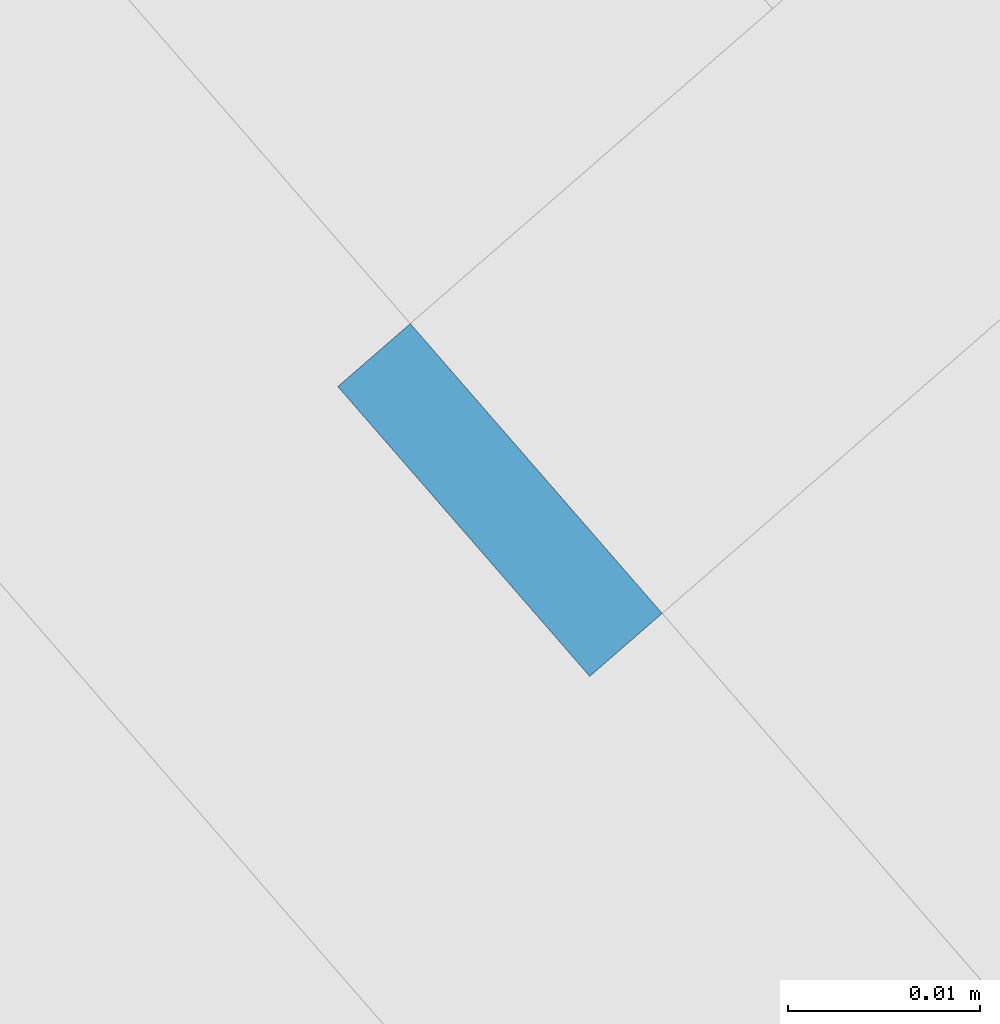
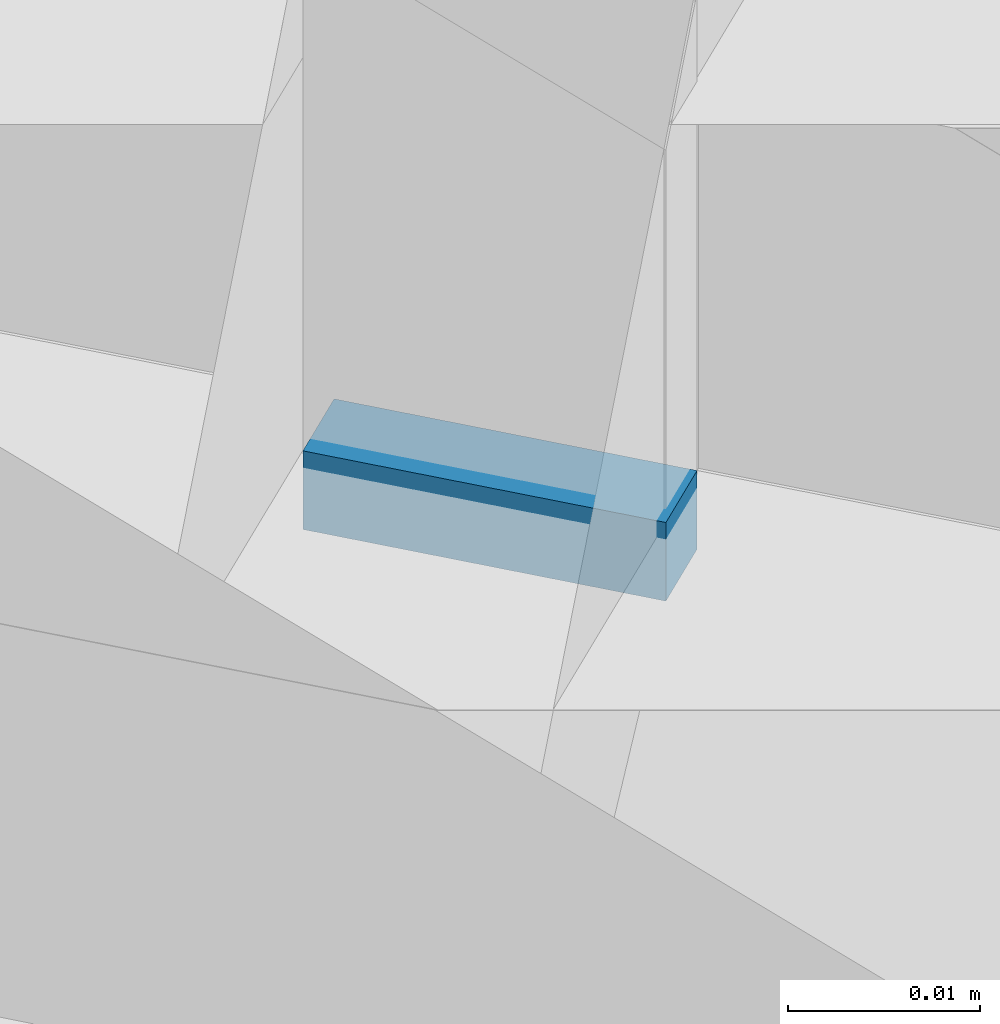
# One storey, part 72 of 390: 1 discrete accessory, 1 element without a shape of its own.
"""IFC2X3 building model written with IfcOpenShell, lengths in millimetres."""

from ifc_helpers import new_model, entity, si_unit, converted_unit, derived_unit, money_unit, direction, frame, origin_with_axes, place, context, subcontext, project, spatial, polyline, outline, extrude, material, type_object, element, aggregate, save


model = new_model("IFC2X3")

# Units and contexts
model_context = context("Model", 3, precision=1e-05, world=origin_with_axes(), true_north=direction((0.0, 1.0)))
body_context = subcontext(model_context, "Body", "Model", "MODEL_VIEW")
ifc_project = project(units=[si_unit("LENGTHUNIT", "METRE", prefix="MILLI"), si_unit("AREAUNIT", "SQUARE_METRE"), si_unit("VOLUMEUNIT", "CUBIC_METRE"), converted_unit("PLANEANGLEUNIT", "DEGREE", entity("IfcPlaneAngleMeasure", 0.0174532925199), si_unit("PLANEANGLEUNIT", "RADIAN"), dimensions=[0, 0, 0, 0, 0, 0, 0]), si_unit("SOLIDANGLEUNIT", "STERADIAN"), money_unit("EUR"), converted_unit("TIMEUNIT", "Year", entity("IfcTimeMeasure", 31556926.0), si_unit("TIMEUNIT", "SECOND"), dimensions=[0, 0, 1, 0, 0, 0, 0]), si_unit("MASSUNIT", "GRAM", prefix="KILO"), si_unit("THERMODYNAMICTEMPERATUREUNIT", "DEGREE_CELSIUS"), si_unit("LUMINOUSINTENSITYUNIT", "LUMEN"), si_unit("ENERGYUNIT", "JOULE", prefix="MEGA"), derived_unit("THERMALCONDUCTANCEUNIT", [(si_unit("POWERUNIT", "WATT"), 1), (si_unit("LENGTHUNIT", "METRE"), -1), (si_unit("THERMODYNAMICTEMPERATUREUNIT", "KELVIN"), -1)]), derived_unit("SPECIFICHEATCAPACITYUNIT", [(si_unit("ENERGYUNIT", "JOULE"), 1), (si_unit("MASSUNIT", "GRAM", prefix="KILO"), -1), (si_unit("THERMODYNAMICTEMPERATUREUNIT", "KELVIN"), -1)]), derived_unit("MASSDENSITYUNIT", [(si_unit("MASSUNIT", "GRAM", prefix="KILO"), 1), (si_unit("VOLUMEUNIT", "CUBIC_METRE"), -1)])], contexts=[model_context])

# Site, building, storey
site_placement = place(None, origin_with_axes())
site = spatial("IfcSite", under=ifc_project, at=site_placement, Name="Site", CompositionType="ELEMENT")
building_placement = place(site_placement, origin_with_axes())
building = spatial("IfcBuilding", under=site, at=building_placement, Name="Building", CompositionType="ELEMENT")
storey_placement = place(building_placement, origin_with_axes())
storey = spatial("IfcBuildingStorey", under=building, at=storey_placement, Name="1 korrus", CompositionType="ELEMENT", Elevation=0.0)

# Curtain wall, discrete accessory
curtain_wall_type = type_object("IfcCurtainWallType", Name="KLF-16", PredefinedType="NOTDEFINED")
curtain_wall_placement = place(storey_placement, frame((129915.663376, 82755.7268841, -0.000187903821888), z_axis=(0.0, 0.0, 1.0), x_axis=(1.0, 0.0, 0.0)))
curtain_wall = element("IfcCurtainWall", 1, at=curtain_wall_placement, inside=storey, type_object=curtain_wall_type, Name="Klaasfassaad")
ifc_material = material(Name="Klaas")
discrete_accessory_type = type_object("IfcDiscreteAccessoryType", Name="Distinct Panel 5 x 5 x 20")
discrete_accessory_placement = place(curtain_wall_placement, frame((-6594.2748914, -5732.31571418, 2422.50018319), z_axis=(0.0, 0.0, 1.0), x_axis=(0.754709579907, 0.656059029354, 0.0)))
discrete_accessory = element("IfcDiscreteAccessory", 2, at=discrete_accessory_placement, type_object=discrete_accessory_type, material=ifc_material, Name="KLF-16 klaaspakett", context=body_context, shape_type="SweptSolid", body=[
    extrude(outline(polyline([(7.5000834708, -12.5000049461), (12.4999166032, -12.500004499), (12.4999166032, -7.49999523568), (7.5000834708, -7.49999523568), (7.5000834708, -12.5000049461)])), frame((0.0, -9.99999999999, 0.0), z_axis=(0.0, 1.0, 0.0), x_axis=(1.0, 0.0, 0.0)), (0.0, 0.0, 1.0), 20.0),
])
aggregate(curtain_wall, [discrete_accessory])

save(model, "model.ifc")
